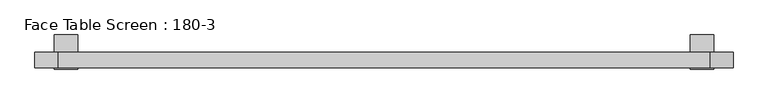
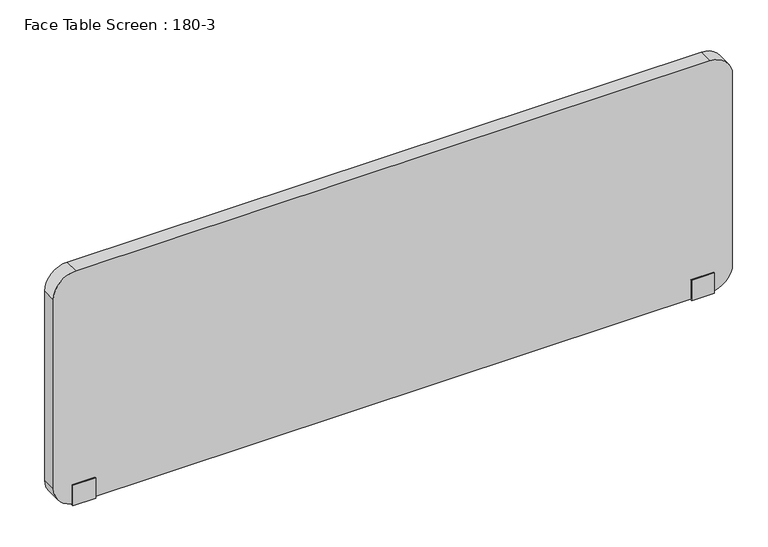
"""IFC4 building model written with IfcOpenShell, lengths in millimetres: furniture geometry, Face Table Screen : 180-3."""

import ifcopenshell
import ifcopenshell.guid

model = None  # the IFC model being written
_history = None  # IfcOwnerHistory: only IFC2X3 demands one
_inside = {}  # id of a spatial element -> (the spatial element, [elements in it])
_under = {}  # id of a project, library or spatial element -> (it, [spatial elements below it])
_declared = {}  # id of a project -> (the project, [libraries it declares])
_typed = {}  # id of a type object -> (the type object, [elements of that type])
_made_of = {}  # id of a material, layer set ... -> (it, [elements and type objects made of it])


def new_model(schema):
    """Start an empty IFC model of exactly this schema.

    Asked for "IFC4X3", IfcOpenShell would pick the latest addendum, in which some entities
    have other attributes; the version numbers below select the first issue.
    IFC2X3 requires an IfcOwnerHistory on every rooted entity: one is made here for all.
    """
    global model, _history
    if schema == "IFC4X3":
        model = ifcopenshell.file(schema_version=(4, 3, 0, 0))
    else:
        model = ifcopenshell.file(schema=schema)
    _inside.clear()
    _under.clear()
    _declared.clear()
    _typed.clear()
    _made_of.clear()
    _history = None
    if model.schema == "IFC2X3":
        org = make("IfcOrganization", Name="unknown")
        user = make(
            "IfcPersonAndOrganization",
            ThePerson=make("IfcPerson", FamilyName="unknown"),
            TheOrganization=org,
        )
        app = make(
            "IfcApplication",
            ApplicationDeveloper=org,
            Version="unknown",
            ApplicationFullName="unknown",
            ApplicationIdentifier="unknown",
        )
        _history = make(
            "IfcOwnerHistory",
            OwningUser=user,
            OwningApplication=app,
            ChangeAction="ADDED",
            CreationDate=0,
        )
    return model


def make(cls, **values):
    """One entity of the class cls with the attributes given. An attribute that is None is left unset."""
    return model.create_entity(
        cls, **{name: value for name, value in values.items() if value is not None}
    )


def rooted(cls, **values):
    """An entity with a GlobalId (a new one), such as an element, a storey or a relation."""
    return make(cls, GlobalId=ifcopenshell.guid.new(), OwnerHistory=_history, **values)


def si_unit(unit_type, name, prefix=None):
    """IfcSIUnit, for example si_unit("LENGTHUNIT", "METRE", prefix="MILLI")."""
    return make("IfcSIUnit", UnitType=unit_type, Prefix=prefix, Name=name)


def assignment(units):
    """IfcUnitAssignment: the units of a project."""
    return None if units is None else make("IfcUnitAssignment", Units=units)


def point(xyz):
    """IfcCartesianPoint."""
    return None if xyz is None else make("IfcCartesianPoint", Coordinates=xyz)


def direction(xyz):
    """IfcDirection."""
    return None if xyz is None else make("IfcDirection", DirectionRatios=xyz)


def frame(location, z_axis=None, x_axis=None):
    """IfcAxis2Placement3D, a coordinate frame: its origin and axes. An axis left out is left unset."""
    return make(
        "IfcAxis2Placement3D",
        Location=point(location),
        Axis=direction(z_axis),
        RefDirection=direction(x_axis),
    )


def frame_2d(location, x_axis=None):
    """IfcAxis2Placement2D, a coordinate frame in the plane: its origin and x axis."""
    return make(
        "IfcAxis2Placement2D", Location=point(location), RefDirection=direction(x_axis)
    )


def origin():
    """The frame at (0, 0, 0) with its axes left unset."""
    return frame((0.0, 0.0, 0.0))


def place(relative_to, where):
    """IfcLocalPlacement: puts the frame where relative to a parent placement (None: the world)."""
    return make(
        "IfcLocalPlacement", PlacementRelTo=relative_to, RelativePlacement=where
    )


def context(
    kind, dimensions, precision=None, world=None, true_north=None, identifier=None
):
    """IfcGeometricRepresentationContext, for example the 3D "Model" context."""
    return make(
        "IfcGeometricRepresentationContext",
        ContextIdentifier=identifier,
        ContextType=kind,
        CoordinateSpaceDimension=dimensions,
        Precision=precision,
        WorldCoordinateSystem=world,
        TrueNorth=true_north,
    )


def project(units=None, contexts=None):
    """IfcProject with its units and contexts."""
    return rooted(
        "IfcProject",
        Name="project",
        RepresentationContexts=contexts,
        UnitsInContext=assignment(units),
    )


def spatial(cls, under=None, at=None, **own):
    """A site, building, storey or space (cls), placed at a placement, below another one or the project."""
    s = rooted(cls, ObjectPlacement=at, **own)
    if under is not None:
        _under.setdefault(under.id(), (under, []))[1].append(s)
    return s


def polyline(points):
    """IfcPolyline through the points."""
    return make("IfcPolyline", Points=[point(p) for p in points])


def circle_curve(where, radius):
    """IfcCircle in the frame where."""
    return make("IfcCircle", Position=where, Radius=radius)


def trimmed(basis, trim1, trim2, sense, master):
    """IfcTrimmedCurve: the piece of a basis curve between two trims."""
    return make(
        "IfcTrimmedCurve",
        BasisCurve=basis,
        Trim1=trim1,
        Trim2=trim2,
        SenseAgreement=sense,
        MasterRepresentation=master,
    )


def segment(curve, same_sense, transition):
    """IfcCompositeCurveSegment."""
    return make(
        "IfcCompositeCurveSegment",
        Transition=transition,
        SameSense=same_sense,
        ParentCurve=curve,
    )


def composite_curve(segments, self_intersect=None):
    """IfcCompositeCurve: segments joined end to end."""
    return make("IfcCompositeCurve", Segments=segments, SelfIntersect=self_intersect)


def outline(outer, holes=None, kind="AREA"):
    """IfcArbitraryClosedProfileDef: a profile drawn as a closed curve; with holes, ...WithVoids."""
    if holes is None:
        return make("IfcArbitraryClosedProfileDef", ProfileType=kind, OuterCurve=outer)
    return make(
        "IfcArbitraryProfileDefWithVoids",
        ProfileType=kind,
        OuterCurve=outer,
        InnerCurves=holes,
    )


def extrude(swept, where, along, depth):
    """IfcExtrudedAreaSolid: the profile swept, set in the frame where, extruded along a direction by depth."""
    return make(
        "IfcExtrudedAreaSolid",
        SweptArea=swept,
        Position=where,
        ExtrudedDirection=direction(along),
        Depth=depth,
    )


def shape(context_of_items, identifier, shape_type, items):
    """IfcShapeRepresentation: the items that make up one representation, for example the "Body"."""
    return make(
        "IfcShapeRepresentation",
        ContextOfItems=context_of_items,
        RepresentationIdentifier=identifier,
        RepresentationType=shape_type,
        Items=items,
    )


def source(mapping_origin, context_of_items, identifier, shape_type, items):
    """IfcRepresentationMap: a shape defined once, which mapped items show again and again."""
    return make(
        "IfcRepresentationMap",
        MappingOrigin=mapping_origin,
        MappedRepresentation=shape(context_of_items, identifier, shape_type, items),
    )


def transform(
    local_origin,
    x_axis=None,
    y_axis=None,
    z_axis=None,
    scale=None,
    scale2=None,
    scale3=None,
    uniform=True,
):
    """IfcCartesianTransformationOperator3D, or its non-uniform kind. x_axis, y_axis, z_axis: its Axis1, 2, 3."""
    if uniform:
        return make(
            "IfcCartesianTransformationOperator3D",
            Axis1=direction(x_axis),
            Axis2=direction(y_axis),
            LocalOrigin=point(local_origin),
            Scale=scale,
            Axis3=direction(z_axis),
        )
    return make(
        "IfcCartesianTransformationOperator3DnonUniform",
        Axis1=direction(x_axis),
        Axis2=direction(y_axis),
        LocalOrigin=point(local_origin),
        Scale=scale,
        Axis3=direction(z_axis),
        Scale2=scale2,
        Scale3=scale3,
    )


def mapped(mapping_source, mapping_target):
    """IfcMappedItem: shows the shape of a source again, moved by a transform."""
    return make(
        "IfcMappedItem", MappingSource=mapping_source, MappingTarget=mapping_target
    )


def made_of(thing, what):
    """Note that an element or type object is made of a material, layer set ...; save() writes the relation."""
    if what is not None:
        _made_of.setdefault(what.id(), (what, []))[1].append(thing)
    return thing


def element(
    cls,
    number,
    at=None,
    inside=None,
    cuts=None,
    type_object=None,
    material=None,
    context=None,
    identifier="Body",
    shape_type=None,
    held_by="IfcProductDefinitionShape",
    body=None,
    shapes=None,
    **own,
):
    """One element of the class cls, such as IfcWall. Its Tag is "e" and its number.

    at: its placement. inside: the storey or other place that contains it. cuts: it is an
    opening in that element (IfcRelVoidsElement). A single representation is given by context,
    identifier, shape_type and body (its items); several are given by shapes. held_by: the class
    of the entity that holds the representations. save() writes the other relations.
    """
    e = rooted(cls, Tag="e%d" % number, ObjectPlacement=at, **own)
    if body is not None:
        shapes = [shape(context, identifier, shape_type, body)]
    if shapes is not None:
        e.Representation = make(held_by, Representations=shapes)
    if inside is not None:
        _inside.setdefault(inside.id(), (inside, []))[1].append(e)
    if cuts is not None:
        rooted(
            "IfcRelVoidsElement", RelatingBuildingElement=cuts, RelatedOpeningElement=e
        )
    if type_object is not None:
        _typed.setdefault(type_object.id(), (type_object, []))[1].append(e)
    return made_of(e, material)


def aggregate(whole, parts):
    """IfcRelAggregates: a whole, such as a stair, and the parts it consists of."""
    return rooted("IfcRelAggregates", RelatingObject=whole, RelatedObjects=parts)


def save(model, path):
    """Write the relations noted so far, then the file.

    IfcRelAggregates (storeys below a building ...), IfcRelContainedInSpatialStructure (elements
    in a storey), IfcRelDefinesByType, IfcRelAssociatesMaterial and IfcRelDeclares: one each for
    every whole, place, type object, material and project.
    """
    for whole, parts in _under.values():
        aggregate(whole, parts)
    for where, things in _inside.values():
        rooted(
            "IfcRelContainedInSpatialStructure",
            RelatedElements=things,
            RelatingStructure=where,
        )
    for kind, things in _typed.values():
        rooted("IfcRelDefinesByType", RelatedObjects=things, RelatingType=kind)
    for what, things in _made_of.values():
        rooted("IfcRelAssociatesMaterial", RelatedObjects=things, RelatingMaterial=what)
    for by, libraries in _declared.values():
        rooted("IfcRelDeclares", RelatingContext=by, RelatedDefinitions=libraries)
    model.write(path)


def face_table_screen_180_3_2303ab26(model_context):
    return source(origin(), model_context, "Body", "SweptSolid", [
        extrude(outline(polyline([(-22.9999947, -256.0), (-22.9999997, -199.0433898), (-20.0, -199.0433898), (-20.0, -253.0), (20.0, -253.0), (20.0, -22.0), (65.0, -22.0), (65.0, -25.0433898), (23.0000062, -25.0433898), (22.9999947, -256.0), (-22.9999947, -256.0)])), frame((790.0, 0.0, 0.0), z_axis=(1.0, 0.0, 0.0), x_axis=(0.0, 1.0, 0.0)), (0.0, 0.0, 1.0), 60.0),
        extrude(outline(polyline([(-22.9999947, -256.0), (-22.9999997, -199.0433898), (-20.0, -199.0433898), (-20.0, -253.0), (20.0, -253.0), (20.0, -22.0), (65.0, -22.0), (65.0, -25.0433898), (23.0000062, -25.0433898), (22.9999947, -256.0), (-22.9999947, -256.0)])), frame((-850.0, 0.0, 0.0), z_axis=(1.0, 0.0, 0.0), x_axis=(0.0, 1.0, 0.0)), (0.0, 0.0, 1.0), 60.0),
        extrude(outline(composite_curve([segment(polyline([(397.0, 840.0), (397.0, -840.0)]), True, "CONTINUOUS"), segment(trimmed(circle_curve(frame_2d((337.0, -840.0)), 60.0), [point((397.0, -840.0))], [point((337.0, -900.0))], False, "CARTESIAN"), True, "CONTINUOUS"), segment(polyline([(337.0, -900.0), (-193.0, -900.0)]), True, "CONTINUOUS"), segment(trimmed(circle_curve(frame_2d((-193.0, -840.0)), 60.0), [point((-193.0, -900.0))], [point((-253.0, -840.0))], False, "CARTESIAN"), True, "CONTINUOUS"), segment(polyline([(-253.0, -840.0), (-253.0, 840.0)]), True, "CONTINUOUS"), segment(trimmed(circle_curve(frame_2d((-193.0, 840.0)), 60.0), [point((-253.0, 840.0))], [point((-193.0, 900.0))], False, "CARTESIAN"), True, "CONTINUOUS"), segment(polyline([(-193.0, 900.0), (337.0, 900.0)]), True, "CONTINUOUS"), segment(trimmed(circle_curve(frame_2d((337.0, 840.0)), 60.0), [point((337.0, 900.0))], [point((397.0, 840.0))], False, "CARTESIAN"), True, "CONTINUOUS")], self_intersect=False)), frame((0.0, -20.0, 0.0), z_axis=(0.0, 1.0, 0.0), x_axis=(0.0, 0.0, 1.0)), (0.0, 0.0, 1.0), 40.0),
    ])


if __name__ == "__main__":
    model = new_model("IFC4")
    model_context = context("Model", 3, world=origin())
    ifc_project = project(units=[si_unit("LENGTHUNIT", "METRE", prefix="MILLI")], contexts=[model_context])
    site = spatial("IfcSite", under=ifc_project)
    building = spatial("IfcBuilding", under=site)
    placement = place(None, origin())
    face_table_screen_180_3_shape = face_table_screen_180_3_2303ab26(model_context)
    element("IfcFurniture", 1, ObjectType="Face Table Screen : 180-3", at=placement, inside=building, context=model_context, shape_type="MappedRepresentation", body=[
        mapped(face_table_screen_180_3_shape, transform((0.0, 0.0, 0.0), x_axis=(1.0, 0.0, 0.0), y_axis=(0.0, 1.0, 0.0), z_axis=(0.0, 0.0, 1.0))),
    ])
    save(model, "model.ifc")
